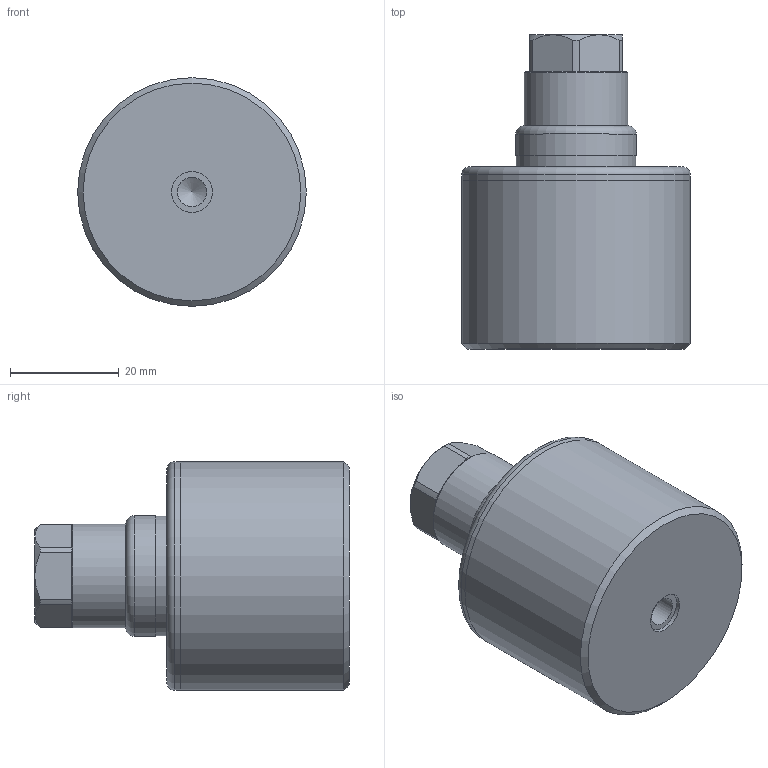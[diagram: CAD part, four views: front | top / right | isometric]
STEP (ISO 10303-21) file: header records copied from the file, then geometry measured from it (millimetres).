
FILE_DESCRIPTION(/* description */ (''),/* implementation_level */ '2;1');
FILE_NAME(/* name */ 'Z:\Engineering\Drawings\3D Library\Assemblies\Website\Triaxial Top\Premium\HS-173 Round PUR\HS-173RXXX0101.stp',/* time_stamp */ '2023-03-25T19:55:49+00:00',/* author */ ('Ricardo.Peneda'),/* organization */ (''),/* preprocessor_version */ 'ST-DEVELOPER v18.1',/* originating_system */ 'Autodesk Inventor 2021',/* authorisation */ '');
FILE_SCHEMA (('AUTOMOTIVE_DESIGN { 1 0 10303 214 3 1 1 }'));
Length unit declared in the file: inch
Products named in the file (1): HS-173RXXX0101_Shrinkwrap_1
Bounding box: 42 x 57.75 x 42 mm (x, y, z)
Volume: 50015.1 mm3; surface area: 13521.7 mm2
Topology: 4 solids, 4 shells, 64 faces, 157 edges, 111 vertices
Faces by surface type: plane 24, cylinder 24, cone 12, sphere 2, torus 2
Full cylindrical faces by diameter (mm): 5.359 x1, 7.5 x1, 9 x1, 12 x2, 14 x1, 15 x2, 18 x1, 19 x1, 19.95 x1, 20 x1, 22 x1, 22.2 x1, 40 x1, 42 x2
Entity records: 2067 total; most frequent: DIRECTION 373, CARTESIAN_POINT 355, ORIENTED_EDGE 310, AXIS2_PLACEMENT_3D 165, EDGE_CURVE 155, VERTEX_POINT 111, CIRCLE 100, EDGE_LOOP 82
